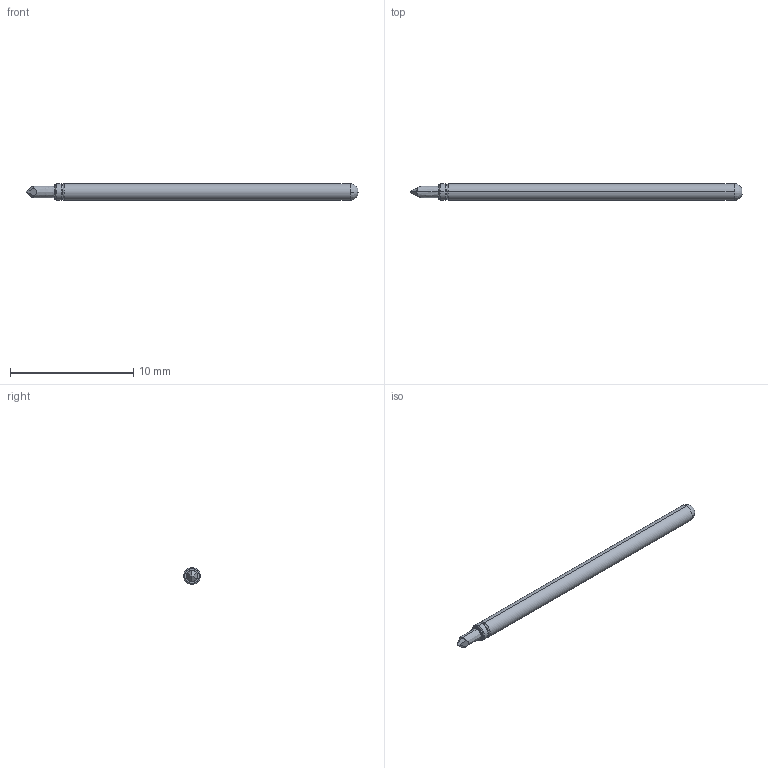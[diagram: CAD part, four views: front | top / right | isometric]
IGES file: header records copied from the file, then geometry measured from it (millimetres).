
Start section: SolidWorks IGES file using analytic representation for surfaces
Global section: file name: Z:\probe solid model mockups\Solidworks models\LTP-25\LTP-25I8 Full.IGS; native system: SolidWorks 2006 by SolidWorks Corporation; preprocessor: SolidWorks 2006 by SolidWorks Corporation; author: tsakatani; date: 071214.143131; units: inch
Bounding box: 26.92 x 1.37 x 1.37 mm (x, y, z)
Surface area: 113 mm2 (no closed solid volume)
Topology: 0 solids, 0 shells, 24 faces, 170 edges, 170 vertices
Faces by surface type: bspline 12, revolution 12
